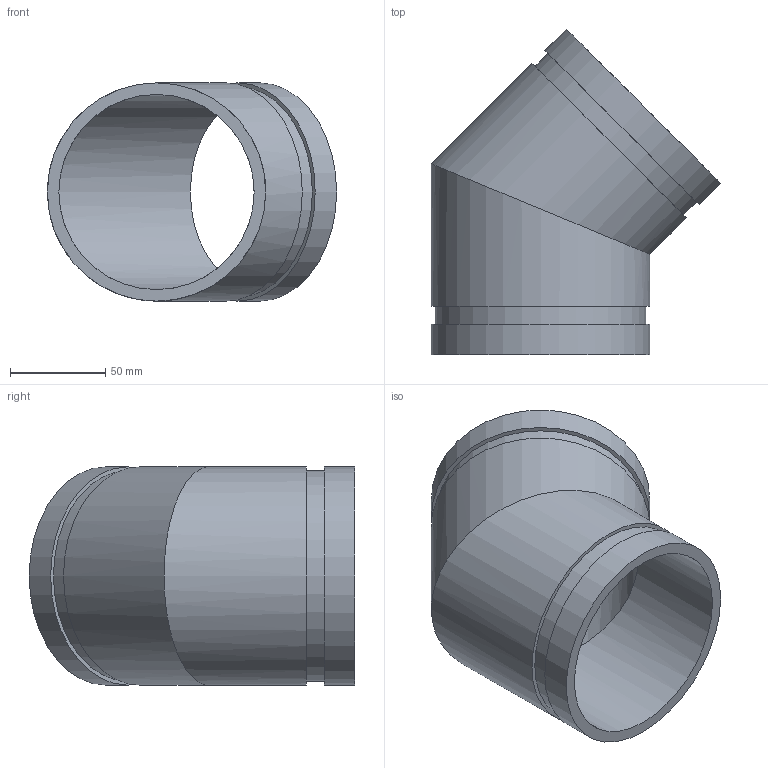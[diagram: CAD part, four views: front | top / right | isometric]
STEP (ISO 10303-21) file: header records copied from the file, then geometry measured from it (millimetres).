
FILE_DESCRIPTION(/* description */ ('VIC 45 DEG FABRICATED ELBOW No 11 SWS (OGS)','CAx-IF Rec.Pracs.---Representation and Presentation of Product Manufacturing Information (PMI)---4.0---2014-10-13'),/* implementation_level */ '2;1');
FILE_NAME(/* name */ 'C:\Users\kkamble\AppData\Roaming\Autodesk\ApplicationPlugins\Back Up\Victaulic_IPS_Elbow 45 Deg_No 11 SWS (OGS)\Victaulic_IPS_Elbow 45 Deg_No 11 SWS (OGS)_4 (100).stp',/* time_stamp */ '2020-09-16T22:14:38+06:00',/* author */ ('cgray'),/* organization */ ('Victaulic'),/* preprocessor_version */ 'ST-DEVELOPER v17.2',/* originating_system */ 'Autodesk Inventor 2019',/* authorisation */ '');
FILE_SCHEMA (('AP242_MANAGED_MODEL_BASED_3D_ENGINEERING_MIM_LF { 1 0 10303 442 1 1 4 }'));
Length unit declared in the file: inch
Products named in the file (1): 11 SWS-04.0
Bounding box: 151.44 x 170.49 x 114.3 mm (x, y, z)
Volume: 297924.8 mm3; surface area: 110499.9 mm2
Topology: 1 solids, 1 shells, 14 faces, 30 edges, 22 vertices
Faces by surface type: cylinder 8, plane 6
Full cylindrical faces by diameter (mm): 102.26 x2, 110.084 x2, 114.3 x4
Entity records: 554 total; most frequent: DIRECTION 108, CARTESIAN_POINT 84, ORIENTED_EDGE 60, AXIS2_PLACEMENT_3D 50, EDGE_CURVE 30, VERTEX_POINT 22, EDGE_LOOP 20, CIRCLE 16
